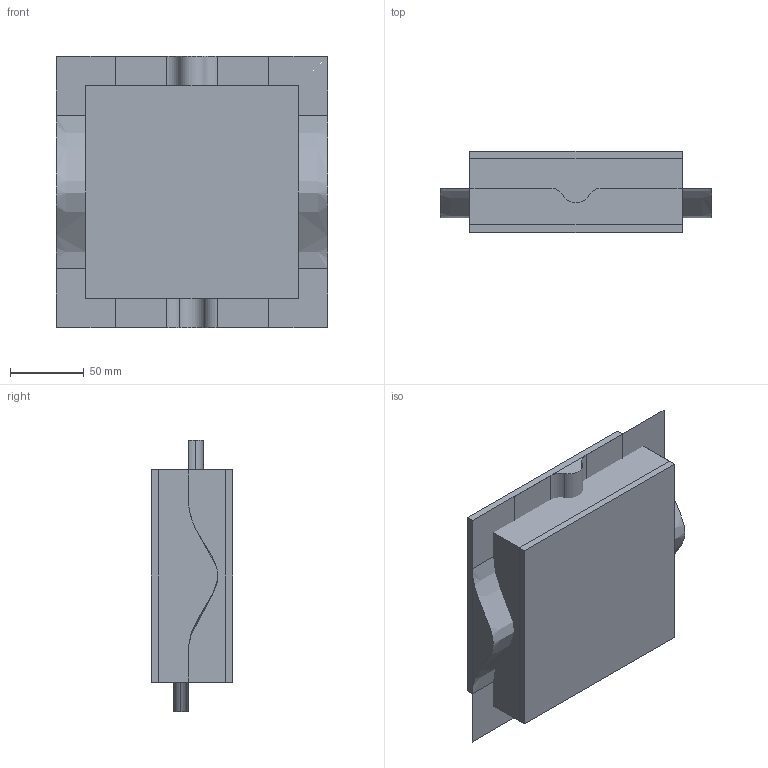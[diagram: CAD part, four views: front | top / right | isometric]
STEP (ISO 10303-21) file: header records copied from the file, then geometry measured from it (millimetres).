
FILE_DESCRIPTION(('CATIA V5 STEP Exchange'),'2;1');
FILE_NAME('C:\_Andres\UNIVERSIDAD\IQS\ASIGNATURAS\DAO\EXF\EXF-16172c\2inicio\Bonilla_Arrufat_Ej02_v4.stp','2017-03-05T15:45:15+00:00',('none'),('none'),'CATIA Version 5-6 Release 2014 SP1 HF18','CATIA V5 STEP AP203','none');
FILE_SCHEMA(('CONFIG_CONTROL_DESIGN'));
Length unit declared in the file: millimetre
Products named in the file (1): Bonilla_Arrufat_Ej02_v4
Bounding box: 184 x 55 x 184 mm (x, y, z)
Surface area: 214871.4 mm2
Topology: 3 solids, 10 shells, 72 faces, 205 edges, 150 vertices
Faces by surface type: bspline 32, plane 32, cylinder 6, extrusion 2
Entity records: 6902 total; most frequent: CARTESIAN_POINT 5585, ORIENTED_EDGE 288, DIRECTION 151, EDGE_CURVE 132, VERTEX_POINT 84, VECTOR 77, LINE 75, ADVANCED_FACE 72
